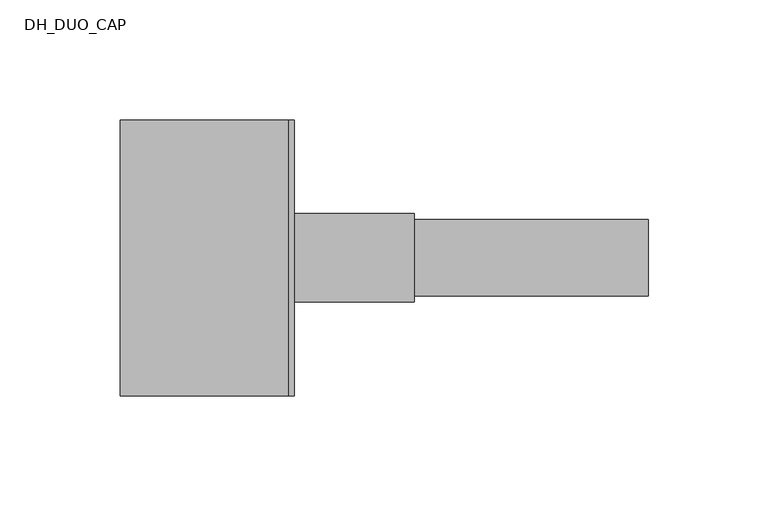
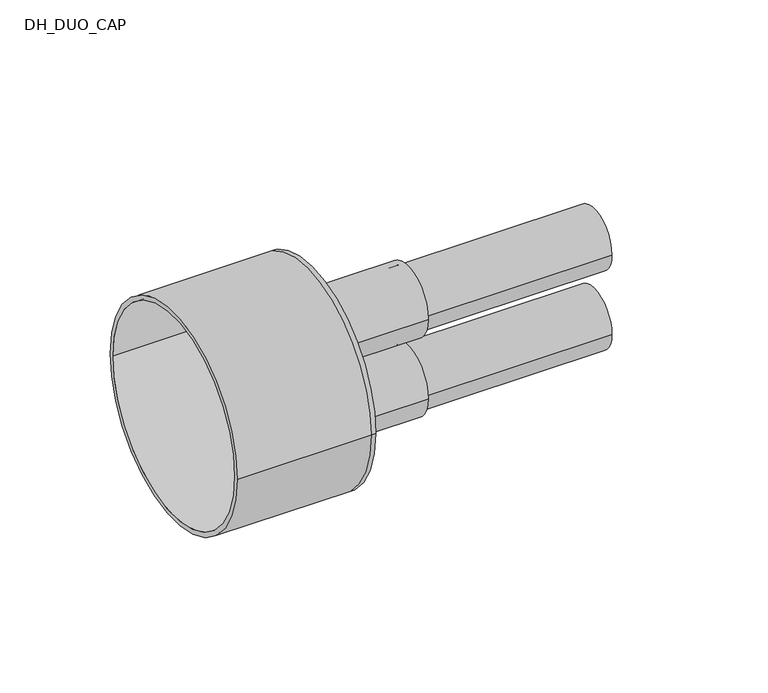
"""IFC4 building model written with IfcOpenShell, lengths in millimetres: pipe fitting geometry, DH_DUO_CAP : INSULPEX DUO 11 Heating - Rubber Cap."""

from ifc_helpers import new_model, si_unit, point, frame, frame_2d, origin, place, context, project, spatial, polyline, circle_curve, trimmed, segment, composite_curve, outline, extrude, source, transform, mapped, element, save
from ifc_brep_helpers import plane_surface, cylinder_surface, revolved_surface, advanced_brep


def dh_duo_cap_2891c07b(model_context):
    return source(origin(), model_context, "Body", "SolidModel", [
        extrude(outline(composite_curve([segment(trimmed(circle_curve(frame_2d((0.0, -22.0)), 16.0), [point((-16.0, -22.0))], [point((16.0, -22.0))], False, "CARTESIAN"), True, "CONTINUOUS"), segment(trimmed(circle_curve(frame_2d((0.0, -22.0)), 16.0), [point((16.0, -22.0))], [point((-16.0, -22.0))], False, "CARTESIAN"), True, "CONTINUOUS")], self_intersect=False), holes=[composite_curve([segment(trimmed(circle_curve(frame_2d((0.0, -22.0)), 13.1), [point((-13.1, -22.0))], [point((13.1, -22.0))], True, "CARTESIAN"), True, "CONTINUOUS"), segment(trimmed(circle_curve(frame_2d((0.0, -22.0)), 13.1), [point((13.1, -22.0))], [point((-13.1, -22.0))], True, "CARTESIAN"), True, "CONTINUOUS")], self_intersect=False)]), frame((0.0, 0.0, 0.0), z_axis=(1.0, 0.0, 0.0), x_axis=(0.0, 1.0, 0.0)), (0.0, 0.0, 1.0), 150.0),
        extrude(outline(composite_curve([segment(trimmed(circle_curve(frame_2d((0.0, 22.0)), 16.0), [point((-16.0, 22.0))], [point((16.0, 22.0))], False, "CARTESIAN"), True, "CONTINUOUS"), segment(trimmed(circle_curve(frame_2d((0.0, 22.0)), 16.0), [point((16.0, 22.0))], [point((-16.0, 22.0))], False, "CARTESIAN"), True, "CONTINUOUS")], self_intersect=False), holes=[composite_curve([segment(trimmed(circle_curve(frame_2d((0.0, 22.0)), 13.1), [point((-13.1, 22.0))], [point((13.1, 22.0))], True, "CARTESIAN"), True, "CONTINUOUS"), segment(trimmed(circle_curve(frame_2d((0.0, 22.0)), 13.1), [point((13.1, 22.0))], [point((-13.1, 22.0))], True, "CARTESIAN"), True, "CONTINUOUS")], self_intersect=False)]), frame((0.0, 0.0, 0.0), z_axis=(1.0, 0.0, 0.0), x_axis=(0.0, 1.0, 0.0)), (0.0, 0.0, 1.0), 150.0),
        advanced_brep(
        [(-70.0, -57.5, 0.0), (-70.0, 57.5, 0.0), (-70.0, -55.0, 0.0), (-70.0, 55.0, 0.0), (0.0, -55.0, 0.0), (0.0, 55.0, 0.0), (0.0, -57.5, 0.0), (0.0, 57.5, 0.0), (0.0, 16.0, 22.0), (0.0, -16.0, 22.0), (0.0, 16.0, -22.0), (0.0, -16.0, -22.0), (2.5, -57.5, 0.0), (2.5, 57.5, 0.0), (2.5, -16.0, 22.0), (2.5, 16.0, 22.0), (2.5, -16.0, -22.0), (2.5, 16.0, -22.0)],
        [
            (0, 1, circle_curve(frame((-70.0, 0.0, 0.0), z_axis=(-1.0, 0.0, 0.0), x_axis=(0.0, 1.0, 0.0)), 57.5)),
            (1, 0, circle_curve(frame((-70.0, 0.0, 0.0), z_axis=(-1.0, 0.0, 0.0), x_axis=(0.0, 1.0, 0.0)), 57.5)),
            (2, 3, circle_curve(frame((-70.0, 0.0, 0.0), z_axis=(1.0, 0.0, 0.0), x_axis=(0.0, 1.0, 0.0)), 55.0)),
            (3, 2, circle_curve(frame((-70.0, 0.0, 0.0), z_axis=(1.0, 0.0, 0.0), x_axis=(0.0, 1.0, 0.0)), 55.0)),
            (2, 4),
            (4, 5, circle_curve(frame((0.0, 0.0, 0.0), z_axis=(1.0, 0.0, 0.0), x_axis=(0.0, 1.0, 0.0)), 55.0)),
            (5, 3),
            (5, 4, circle_curve(frame((0.0, 0.0, 0.0), z_axis=(1.0, 0.0, 0.0), x_axis=(0.0, 1.0, 0.0)), 55.0)),
            (0, 6),
            (6, 7, circle_curve(frame((0.0, 0.0, 0.0), z_axis=(-1.0, 0.0, 0.0), x_axis=(0.0, 1.0, 0.0)), 57.5)),
            (7, 1),
            (7, 6, circle_curve(frame((0.0, 0.0, 0.0), z_axis=(-1.0, 0.0, 0.0), x_axis=(0.0, 1.0, 0.0)), 57.5)),
            (8, 9, circle_curve(frame((0.0, 0.0, 22.0), z_axis=(1.0, 0.0, 0.0), x_axis=(0.0, 1.0, 0.0)), 16.0)),
            (9, 8, circle_curve(frame((0.0, 0.0, 22.0), z_axis=(1.0, 0.0, 0.0), x_axis=(0.0, 1.0, 0.0)), 16.0)),
            (10, 11, circle_curve(frame((0.0, 0.0, -22.0), z_axis=(1.0, 0.0, 0.0), x_axis=(0.0, 1.0, 0.0)), 16.0)),
            (11, 10, circle_curve(frame((0.0, 0.0, -22.0), z_axis=(1.0, 0.0, 0.0), x_axis=(0.0, 1.0, 0.0)), 16.0)),
            (12, 13, circle_curve(frame((2.5, 0.0, 0.0), z_axis=(1.0, 0.0, 0.0), x_axis=(0.0, 1.0, 0.0)), 57.5)),
            (13, 12, circle_curve(frame((2.5, 0.0, 0.0), z_axis=(1.0, 0.0, 0.0), x_axis=(0.0, 1.0, 0.0)), 57.5)),
            (14, 15, circle_curve(frame((2.5, 0.0, 22.0), z_axis=(-1.0, 0.0, 0.0), x_axis=(0.0, 1.0, 0.0)), 16.0)),
            (15, 14, circle_curve(frame((2.5, 0.0, 22.0), z_axis=(-1.0, 0.0, 0.0), x_axis=(0.0, 1.0, 0.0)), 16.0)),
            (16, 17, circle_curve(frame((2.5, 0.0, -22.0), z_axis=(-1.0, 0.0, 0.0), x_axis=(0.0, 1.0, 0.0)), 16.0)),
            (17, 16, circle_curve(frame((2.5, 0.0, -22.0), z_axis=(-1.0, 0.0, 0.0), x_axis=(0.0, 1.0, 0.0)), 16.0)),
            (13, 7),
            (6, 12),
            (8, 15),
            (14, 9),
            (10, 17),
            (16, 11),
        ],
        [
            plane_surface(frame((-70.0, 0.0, 0.0), z_axis=(-1.0, 0.0, 0.0), x_axis=(0.0, 0.0, 1.0))),
            revolved_surface(polyline([(0.0, 55.0, 0.0), (-70.0, 55.0, 0.0)]), (-70.0, 0.0, 0.0), (1.0, 0.0, 0.0)),
            cylinder_surface(frame((-70.0, 0.0, 0.0), z_axis=(-1.0, 0.0, 0.0), x_axis=(0.0, 1.0, 0.0)), 57.5),
            plane_surface(frame((0.0, 0.0, 0.0), z_axis=(-1.0, 0.0, 0.0), x_axis=(0.0, 0.0, 1.0))),
            plane_surface(frame((2.5, 0.0, 0.0), z_axis=(1.0, 0.0, 0.0), x_axis=(0.0, 0.0, 1.0))),
            cylinder_surface(frame((0.0, 0.0, 0.0), z_axis=(-1.0, 0.0, 0.0), x_axis=(0.0, 1.0, 0.0)), 57.5),
            revolved_surface(polyline([(0.0, 16.0, 22.0), (2.5, 16.0, 22.0)]), (0.0, 0.0, 22.0), (-1.0, 0.0, 0.0)),
            revolved_surface(polyline([(0.0, 16.0, -22.0), (2.5, 16.0, -22.0)]), (0.0, 0.0, -22.0), (-1.0, 0.0, 0.0)),
        ],
        [
            (0, [[1, 2], [3, 4]]),
            (1, [[-3, 5, 6, 7]]),
            (1, [[-4, -7, 8, -5]]),
            (2, [[-1, 9, 10, 11]]),
            (2, [[-2, -11, 12, -9]]),
            (3, [[-6, -8], [13, 14], [15, 16]]),
            (4, [[17, 18], [19, 20], [21, 22]]),
            (5, [[-18, 23, -10, 24]]),
            (5, [[-17, -24, -12, -23]]),
            (6, [[25, -19, 26, -13]]),
            (6, [[-25, -14, -26, -20]]),
            (7, [[27, -21, 28, -15]]),
            (7, [[-27, -16, -28, -22]]),
        ],
    ),
        extrude(outline(composite_curve([segment(trimmed(circle_curve(frame_2d((0.0, -22.0)), 18.5), [point((-18.5, -22.0))], [point((18.5, -22.0))], False, "CARTESIAN"), True, "CONTINUOUS"), segment(trimmed(circle_curve(frame_2d((0.0, -22.0)), 18.5), [point((18.5, -22.0))], [point((-18.5, -22.0))], False, "CARTESIAN"), True, "CONTINUOUS")], self_intersect=False), holes=[composite_curve([segment(trimmed(circle_curve(frame_2d((0.0, -22.0)), 16.0), [point((-16.0, -22.0))], [point((16.0, -22.0))], True, "CARTESIAN"), True, "CONTINUOUS"), segment(trimmed(circle_curve(frame_2d((0.0, -22.0)), 16.0), [point((16.0, -22.0))], [point((-16.0, -22.0))], True, "CARTESIAN"), True, "CONTINUOUS")], self_intersect=False)]), frame((2.5, 0.0, 0.0), z_axis=(1.0, 0.0, 0.0), x_axis=(0.0, 1.0, 0.0)), (0.0, 0.0, 1.0), 50.0),
        extrude(outline(composite_curve([segment(trimmed(circle_curve(frame_2d((0.0, 22.0)), 18.5), [point((-18.5, 22.0))], [point((18.5, 22.0))], False, "CARTESIAN"), True, "CONTINUOUS"), segment(trimmed(circle_curve(frame_2d((0.0, 22.0)), 18.5), [point((18.5, 22.0))], [point((-18.5, 22.0))], False, "CARTESIAN"), True, "CONTINUOUS")], self_intersect=False), holes=[composite_curve([segment(trimmed(circle_curve(frame_2d((0.0, 22.0)), 16.0), [point((-16.0, 22.0))], [point((16.0, 22.0))], True, "CARTESIAN"), True, "CONTINUOUS"), segment(trimmed(circle_curve(frame_2d((0.0, 22.0)), 16.0), [point((16.0, 22.0))], [point((-16.0, 22.0))], True, "CARTESIAN"), True, "CONTINUOUS")], self_intersect=False)]), frame((2.5, 0.0, 0.0), z_axis=(1.0, 0.0, 0.0), x_axis=(0.0, 1.0, 0.0)), (0.0, 0.0, 1.0), 50.0),
    ])


if __name__ == "__main__":
    model = new_model("IFC4")
    model_context = context("Model", 3, world=origin())
    ifc_project = project(units=[si_unit("LENGTHUNIT", "METRE", prefix="MILLI")], contexts=[model_context])
    site = spatial("IfcSite", under=ifc_project)
    building = spatial("IfcBuilding", under=site)
    placement = place(None, origin())
    dh_duo_cap_shape = dh_duo_cap_2891c07b(model_context)
    element("IfcPipeFitting", 1, ObjectType="DH_DUO_CAP : INSULPEX DUO 11 Heating - Rubber Cap", at=placement, inside=building, context=model_context, shape_type="MappedRepresentation", body=[
        mapped(dh_duo_cap_shape, transform((0.0, 0.0, 0.0), x_axis=(1.0, 0.0, 0.0), y_axis=(0.0, 1.0, 0.0), z_axis=(0.0, 0.0, 1.0))),
    ])
    save(model, "model.ifc")
